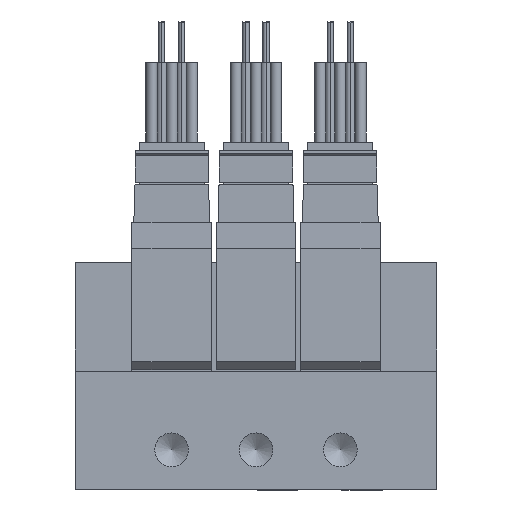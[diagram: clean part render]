
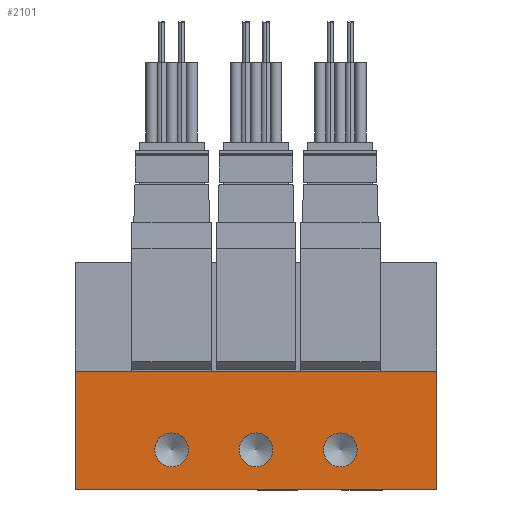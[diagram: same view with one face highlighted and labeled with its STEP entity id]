
A CAD part, front view. The second image highlights one B-rep face of the part: STEP entity #2101.
In plain terms, the highlighted planar face has unit normal (0, -1, 0).
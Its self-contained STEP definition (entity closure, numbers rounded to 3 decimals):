
#2101=ADVANCED_FACE('',(#3339,#3340,#3341,#3342),#3343,.F.);
#3339=FACE_BOUND('',#5916,.T.);
#3340=FACE_BOUND('',#5917,.T.);
#3341=FACE_BOUND('',#5918,.T.);
#3342=FACE_OUTER_BOUND('',#5919,.T.);
#3343=PLANE('',#5920);
#5916=EDGE_LOOP('',(#9181));
#5917=EDGE_LOOP('',(#9182));
#5918=EDGE_LOOP('',(#9183));
#5919=EDGE_LOOP('',(#9184,#9185,#9186,#9187));
#5920=AXIS2_PLACEMENT_3D('',#9188,#9189,#9190);
#9181=ORIENTED_EDGE('',*,*,#18915,.F.);
#9182=ORIENTED_EDGE('',*,*,#18937,.F.);
#9183=ORIENTED_EDGE('',*,*,#18938,.F.);
#9184=ORIENTED_EDGE('',*,*,#18939,.F.);
#9185=ORIENTED_EDGE('',*,*,#18940,.F.);
#9186=ORIENTED_EDGE('',*,*,#18941,.T.);
#9187=ORIENTED_EDGE('',*,*,#18935,.T.);
#9188=CARTESIAN_POINT('',(-45.0,0.,14.8));
#9189=DIRECTION('',(0.0,1.0,0.));
#9190=DIRECTION('',(0.0,0.,1.0));
#18915=EDGE_CURVE('',#22078,#22078,#22079,.T.);
#18935=EDGE_CURVE('',#22115,#22113,#22116,.T.);
#18937=EDGE_CURVE('',#22118,#22118,#22119,.T.);
#18938=EDGE_CURVE('',#22120,#22120,#22121,.T.);
#18939=EDGE_CURVE('',#22122,#22113,#22123,.T.);
#18940=EDGE_CURVE('',#22124,#22122,#22125,.T.);
#18941=EDGE_CURVE('',#22124,#22115,#22126,.T.);
#22078=VERTEX_POINT('',#27435);
#22079=CIRCLE('',#27436,2.1);
#22113=VERTEX_POINT('',#27483);
#22115=VERTEX_POINT('',#27486);
#22116=LINE('',#27487,#27488);
#22118=VERTEX_POINT('',#27491);
#22119=CIRCLE('',#27492,2.1);
#22120=VERTEX_POINT('',#27493);
#22121=CIRCLE('',#27494,2.1);
#22122=VERTEX_POINT('',#27495);
#22123=LINE('',#27496,#27497);
#22124=VERTEX_POINT('',#27498);
#22125=LINE('',#27499,#27500);
#22126=LINE('',#27501,#27502);
#27435=CARTESIAN_POINT('',(-33.0,0.,2.9));
#27436=AXIS2_PLACEMENT_3D('',#35100,#35101,#35102);
#27483=CARTESIAN_POINT('',(0.0,0.0,0.0));
#27486=CARTESIAN_POINT('',(-45.0,0.0,0.0));
#27487=CARTESIAN_POINT('',(-45.0,0.0,0.0));
#27488=VECTOR('',#35132,1.0);
#27491=CARTESIAN_POINT('',(-22.5,0.,2.9));
#27492=AXIS2_PLACEMENT_3D('',#35134,#35135,#35136);
#27493=CARTESIAN_POINT('',(-12.0,0.,2.9));
#27494=AXIS2_PLACEMENT_3D('',#35137,#35138,#35139);
#27495=CARTESIAN_POINT('',(0.0,0.,14.8));
#27496=CARTESIAN_POINT('',(0.0,0.,14.8));
#27497=VECTOR('',#35140,1.0);
#27498=CARTESIAN_POINT('',(-45.0,0.,14.8));
#27499=CARTESIAN_POINT('',(-45.0,0.,14.8));
#27500=VECTOR('',#35141,1.0);
#27501=CARTESIAN_POINT('',(-45.0,0.,14.8));
#27502=VECTOR('',#35142,1.0);
#35100=CARTESIAN_POINT('',(-33.0,0.0,5.0));
#35101=DIRECTION('',(0.0,-1.0,0.));
#35102=DIRECTION('',(0.0,0.,-1.0));
#35132=DIRECTION('',(1.0,0.0,0.0));
#35134=CARTESIAN_POINT('',(-22.5,0.0,5.0));
#35135=DIRECTION('',(0.0,-1.0,0.));
#35136=DIRECTION('',(0.0,0.,-1.0));
#35137=CARTESIAN_POINT('',(-12.0,0.0,5.0));
#35138=DIRECTION('',(0.0,-1.0,0.));
#35139=DIRECTION('',(0.0,0.,-1.0));
#35140=DIRECTION('',(0.0,0.,-1.0));
#35141=DIRECTION('',(1.0,0.0,0.0));
#35142=DIRECTION('',(0.0,0.,-1.0));
